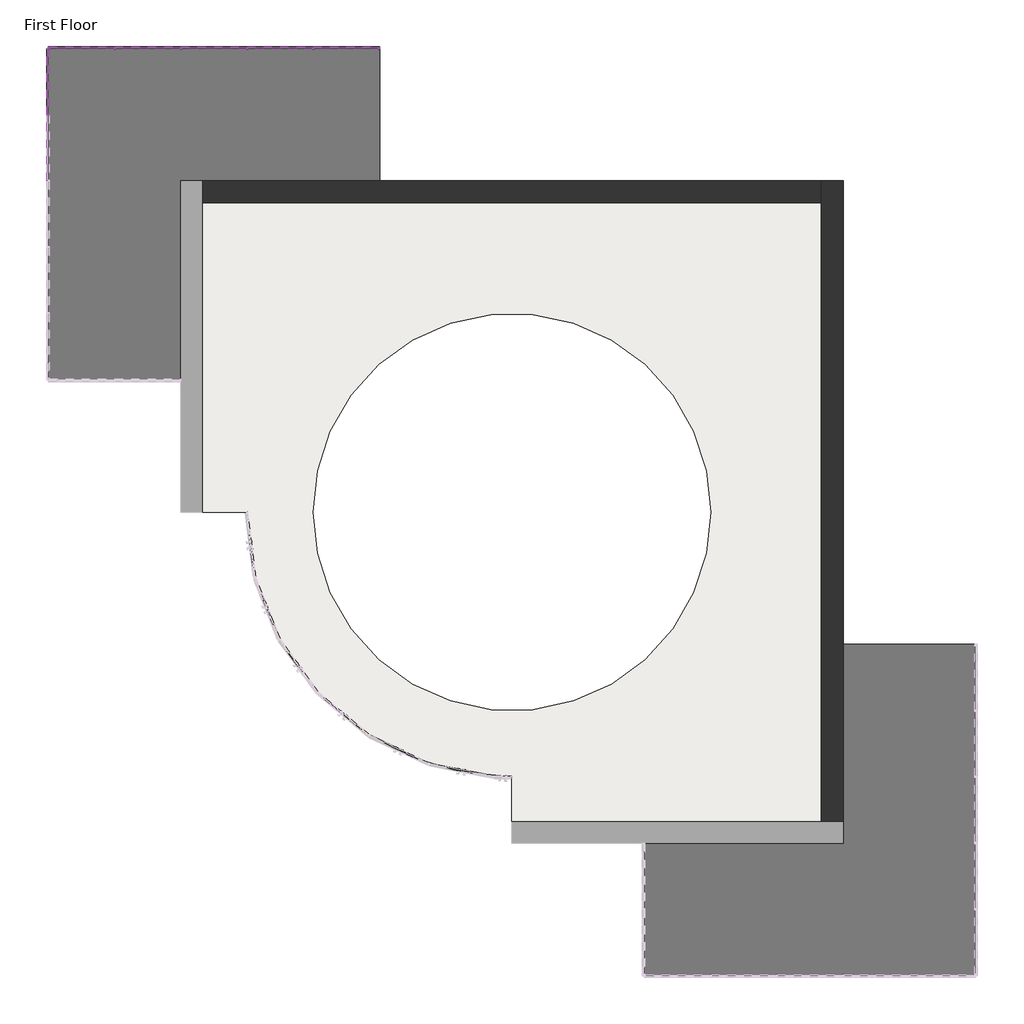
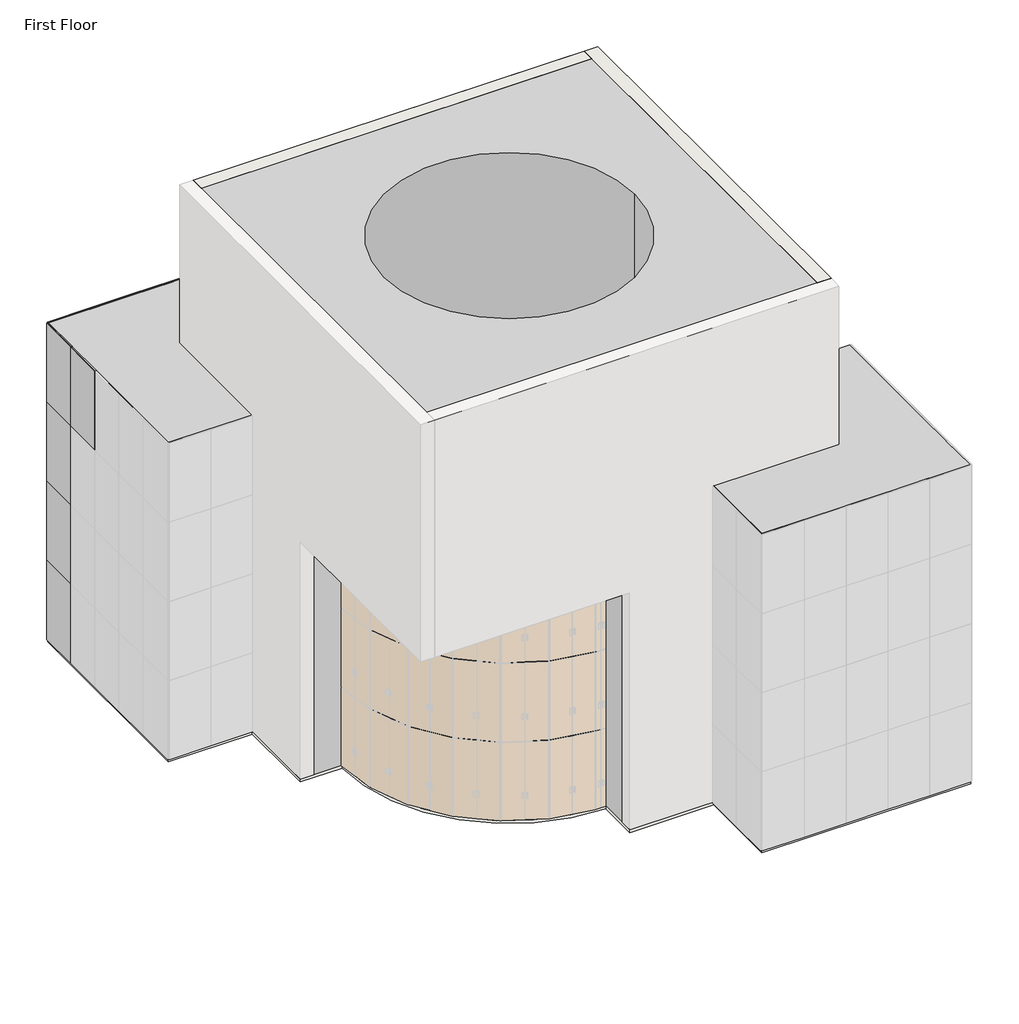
# One storey, part 4 of 4: 63 members, 25 plates, 2 proxies, 2 slabs, 2 walls.
"""IFC4 building model written with IfcOpenShell, lengths in millimetres."""

import ifcopenshell
import ifcopenshell.guid

model = None  # the IFC model being written
_history = None  # IfcOwnerHistory: only IFC2X3 demands one
_inside = {}  # id of a spatial element -> (the spatial element, [elements in it])
_under = {}  # id of a project, library or spatial element -> (it, [spatial elements below it])
_declared = {}  # id of a project -> (the project, [libraries it declares])
_typed = {}  # id of a type object -> (the type object, [elements of that type])
_made_of = {}  # id of a material, layer set ... -> (it, [elements and type objects made of it])


def new_model(schema):
    """Start an empty IFC model of exactly this schema.

    Asked for "IFC4X3", IfcOpenShell would pick the latest addendum, in which some entities
    have other attributes; the version numbers below select the first issue.
    IFC2X3 requires an IfcOwnerHistory on every rooted entity: one is made here for all.
    """
    global model, _history
    if schema == "IFC4X3":
        model = ifcopenshell.file(schema_version=(4, 3, 0, 0))
    else:
        model = ifcopenshell.file(schema=schema)
    _inside.clear()
    _under.clear()
    _declared.clear()
    _typed.clear()
    _made_of.clear()
    _history = None
    if model.schema == "IFC2X3":
        org = make("IfcOrganization", Name="unknown")
        user = make(
            "IfcPersonAndOrganization",
            ThePerson=make("IfcPerson", FamilyName="unknown"),
            TheOrganization=org,
        )
        app = make(
            "IfcApplication",
            ApplicationDeveloper=org,
            Version="unknown",
            ApplicationFullName="unknown",
            ApplicationIdentifier="unknown",
        )
        _history = make(
            "IfcOwnerHistory",
            OwningUser=user,
            OwningApplication=app,
            ChangeAction="ADDED",
            CreationDate=0,
        )
    return model


def make(cls, **values):
    """One entity of the class cls with the attributes given. An attribute that is None is left unset."""
    return model.create_entity(
        cls, **{name: value for name, value in values.items() if value is not None}
    )


def rooted(cls, **values):
    """An entity with a GlobalId (a new one), such as an element, a storey or a relation."""
    return make(cls, GlobalId=ifcopenshell.guid.new(), OwnerHistory=_history, **values)


def si_unit(unit_type, name, prefix=None):
    """IfcSIUnit, for example si_unit("LENGTHUNIT", "METRE", prefix="MILLI")."""
    return make("IfcSIUnit", UnitType=unit_type, Prefix=prefix, Name=name)


def assignment(units):
    """IfcUnitAssignment: the units of a project."""
    return None if units is None else make("IfcUnitAssignment", Units=units)


def point(xyz):
    """IfcCartesianPoint."""
    return None if xyz is None else make("IfcCartesianPoint", Coordinates=xyz)


def direction(xyz):
    """IfcDirection."""
    return None if xyz is None else make("IfcDirection", DirectionRatios=xyz)


def frame(location, z_axis=None, x_axis=None):
    """IfcAxis2Placement3D, a coordinate frame: its origin and axes. An axis left out is left unset."""
    return make(
        "IfcAxis2Placement3D",
        Location=point(location),
        Axis=direction(z_axis),
        RefDirection=direction(x_axis),
    )


def frame_2d(location, x_axis=None):
    """IfcAxis2Placement2D, a coordinate frame in the plane: its origin and x axis."""
    return make(
        "IfcAxis2Placement2D", Location=point(location), RefDirection=direction(x_axis)
    )


def origin():
    """The frame at (0, 0, 0) with its axes left unset."""
    return frame((0.0, 0.0, 0.0))


def origin_with_axes():
    """The frame at (0, 0, 0) with the z axis (0, 0, 1) and the x axis (1, 0, 0) written out."""
    return frame((0.0, 0.0, 0.0), z_axis=(0.0, 0.0, 1.0), x_axis=(1.0, 0.0, 0.0))


def place(relative_to, where):
    """IfcLocalPlacement: puts the frame where relative to a parent placement (None: the world)."""
    return make(
        "IfcLocalPlacement", PlacementRelTo=relative_to, RelativePlacement=where
    )


def context(
    kind, dimensions, precision=None, world=None, true_north=None, identifier=None
):
    """IfcGeometricRepresentationContext, for example the 3D "Model" context."""
    return make(
        "IfcGeometricRepresentationContext",
        ContextIdentifier=identifier,
        ContextType=kind,
        CoordinateSpaceDimension=dimensions,
        Precision=precision,
        WorldCoordinateSystem=world,
        TrueNorth=true_north,
    )


def project(units=None, contexts=None):
    """IfcProject with its units and contexts."""
    return rooted(
        "IfcProject",
        Name="project",
        RepresentationContexts=contexts,
        UnitsInContext=assignment(units),
    )


def spatial(cls, under=None, at=None, **own):
    """A site, building, storey or space (cls), placed at a placement, below another one or the project."""
    s = rooted(cls, ObjectPlacement=at, **own)
    if under is not None:
        _under.setdefault(under.id(), (under, []))[1].append(s)
    return s


def polyline(points):
    """IfcPolyline through the points."""
    return make("IfcPolyline", Points=[point(p) for p in points])


def circle_curve(where, radius):
    """IfcCircle in the frame where."""
    return make("IfcCircle", Position=where, Radius=radius)


def trimmed(basis, trim1, trim2, sense, master):
    """IfcTrimmedCurve: the piece of a basis curve between two trims."""
    return make(
        "IfcTrimmedCurve",
        BasisCurve=basis,
        Trim1=trim1,
        Trim2=trim2,
        SenseAgreement=sense,
        MasterRepresentation=master,
    )


def segment(curve, same_sense, transition):
    """IfcCompositeCurveSegment."""
    return make(
        "IfcCompositeCurveSegment",
        Transition=transition,
        SameSense=same_sense,
        ParentCurve=curve,
    )


def composite_curve(segments, self_intersect=None):
    """IfcCompositeCurve: segments joined end to end."""
    return make("IfcCompositeCurve", Segments=segments, SelfIntersect=self_intersect)


def outline(outer, holes=None, kind="AREA"):
    """IfcArbitraryClosedProfileDef: a profile drawn as a closed curve; with holes, ...WithVoids."""
    if holes is None:
        return make("IfcArbitraryClosedProfileDef", ProfileType=kind, OuterCurve=outer)
    return make(
        "IfcArbitraryProfileDefWithVoids",
        ProfileType=kind,
        OuterCurve=outer,
        InnerCurves=holes,
    )


def extrude(swept, where, along, depth):
    """IfcExtrudedAreaSolid: the profile swept, set in the frame where, extruded along a direction by depth."""
    return make(
        "IfcExtrudedAreaSolid",
        SweptArea=swept,
        Position=where,
        ExtrudedDirection=direction(along),
        Depth=depth,
    )


def faces_of(points, faces, orient=None, outer=None):
    """IfcFace entities. A face is a list of loops; a loop is a list of indices into points, from 0.

    orient and outer hold one flag for each loop. By default every Orientation is true, the
    first loop of a face is its IfcFaceOuterBound and the others are IfcFaceBound.
    """
    made = []
    for i, loops in enumerate(faces):
        bounds = []
        for j, loop in enumerate(loops):
            is_outer = j == 0 if outer is None else outer[i][j]
            bounds.append(
                make(
                    "IfcFaceOuterBound" if is_outer else "IfcFaceBound",
                    Bound=make("IfcPolyLoop", Polygon=[points[k] for k in loop]),
                    Orientation=True if orient is None else orient[i][j],
                )
            )
        made.append(make("IfcFace", Bounds=bounds))
    return made


def faceted_brep(points, faces, orient=None, outer=None, voids=None):
    """IfcFacetedBrep: a solid bounded by flat faces; with voids (closed shells), ...WithVoids."""
    shared = [point(p) for p in points]
    hull = make("IfcClosedShell", CfsFaces=faces_of(shared, faces, orient, outer))
    if voids is None:
        return make("IfcFacetedBrep", Outer=hull)
    return make(
        "IfcFacetedBrepWithVoids",
        Outer=hull,
        Voids=[
            make(cls, CfsFaces=faces_of(shared, fs, o, b)) for cls, fs, o, b in voids
        ],
    )


def shape(context_of_items, identifier, shape_type, items):
    """IfcShapeRepresentation: the items that make up one representation, for example the "Body"."""
    return make(
        "IfcShapeRepresentation",
        ContextOfItems=context_of_items,
        RepresentationIdentifier=identifier,
        RepresentationType=shape_type,
        Items=items,
    )


def source(mapping_origin, context_of_items, identifier, shape_type, items):
    """IfcRepresentationMap: a shape defined once, which mapped items show again and again."""
    return make(
        "IfcRepresentationMap",
        MappingOrigin=mapping_origin,
        MappedRepresentation=shape(context_of_items, identifier, shape_type, items),
    )


def transform(
    local_origin,
    x_axis=None,
    y_axis=None,
    z_axis=None,
    scale=None,
    scale2=None,
    scale3=None,
    uniform=True,
):
    """IfcCartesianTransformationOperator3D, or its non-uniform kind. x_axis, y_axis, z_axis: its Axis1, 2, 3."""
    if uniform:
        return make(
            "IfcCartesianTransformationOperator3D",
            Axis1=direction(x_axis),
            Axis2=direction(y_axis),
            LocalOrigin=point(local_origin),
            Scale=scale,
            Axis3=direction(z_axis),
        )
    return make(
        "IfcCartesianTransformationOperator3DnonUniform",
        Axis1=direction(x_axis),
        Axis2=direction(y_axis),
        LocalOrigin=point(local_origin),
        Scale=scale,
        Axis3=direction(z_axis),
        Scale2=scale2,
        Scale3=scale3,
    )


def mapped(mapping_source, mapping_target):
    """IfcMappedItem: shows the shape of a source again, moved by a transform."""
    return make(
        "IfcMappedItem", MappingSource=mapping_source, MappingTarget=mapping_target
    )


def made_of(thing, what):
    """Note that an element or type object is made of a material, layer set ...; save() writes the relation."""
    if what is not None:
        _made_of.setdefault(what.id(), (what, []))[1].append(thing)
    return thing


def element(
    cls,
    number,
    at=None,
    inside=None,
    cuts=None,
    type_object=None,
    material=None,
    context=None,
    identifier="Body",
    shape_type=None,
    held_by="IfcProductDefinitionShape",
    body=None,
    shapes=None,
    **own,
):
    """One element of the class cls, such as IfcWall. Its Tag is "e" and its number.

    at: its placement. inside: the storey or other place that contains it. cuts: it is an
    opening in that element (IfcRelVoidsElement). A single representation is given by context,
    identifier, shape_type and body (its items); several are given by shapes. held_by: the class
    of the entity that holds the representations. save() writes the other relations.
    """
    e = rooted(cls, Tag="e%d" % number, ObjectPlacement=at, **own)
    if body is not None:
        shapes = [shape(context, identifier, shape_type, body)]
    if shapes is not None:
        e.Representation = make(held_by, Representations=shapes)
    if inside is not None:
        _inside.setdefault(inside.id(), (inside, []))[1].append(e)
    if cuts is not None:
        rooted(
            "IfcRelVoidsElement", RelatingBuildingElement=cuts, RelatedOpeningElement=e
        )
    if type_object is not None:
        _typed.setdefault(type_object.id(), (type_object, []))[1].append(e)
    return made_of(e, material)


def aggregate(whole, parts):
    """IfcRelAggregates: a whole, such as a stair, and the parts it consists of."""
    return rooted("IfcRelAggregates", RelatingObject=whole, RelatedObjects=parts)


def save(model, path):
    """Write the relations noted so far, then the file.

    IfcRelAggregates (storeys below a building ...), IfcRelContainedInSpatialStructure (elements
    in a storey), IfcRelDefinesByType, IfcRelAssociatesMaterial and IfcRelDeclares: one each for
    every whole, place, type object, material and project.
    """
    for whole, parts in _under.values():
        aggregate(whole, parts)
    for where, things in _inside.values():
        rooted(
            "IfcRelContainedInSpatialStructure",
            RelatedElements=things,
            RelatingStructure=where,
        )
    for kind, things in _typed.values():
        rooted("IfcRelDefinesByType", RelatedObjects=things, RelatingType=kind)
    for what, things in _made_of.values():
        rooted("IfcRelAssociatesMaterial", RelatedObjects=things, RelatingMaterial=what)
    for by, libraries in _declared.values():
        rooted("IfcRelDeclares", RelatingContext=by, RelatedDefinitions=libraries)
    model.write(path)


def plane_surface(at):
    """IfcPlane: the flat surface through the origin of the frame at, square to its z axis."""
    return make("IfcPlane", Position=at)


def cylinder_surface(at, radius):
    """IfcCylindricalSurface: all points at the distance radius from the z axis of the frame at."""
    return make("IfcCylindricalSurface", Position=at, Radius=radius)


def revolved_surface(curve, axis_point, axis_direction):
    """IfcSurfaceOfRevolution: the curve turned about the line through axis_point along axis_direction."""
    return make(
        "IfcSurfaceOfRevolution",
        SweptCurve=make("IfcArbitraryOpenProfileDef", ProfileType="CURVE", Curve=curve),
        AxisPosition=make("IfcAxis1Placement", Location=point(axis_point), Axis=direction(axis_direction)),
    )


def advanced_brep(points, edges, surfaces, faces):
    """IfcAdvancedBrep: a solid bounded by faces that lie on surfaces and meet in shared edges.

    An edge is (start, end): straight between two places in points (the first is 0);
    or (start, end, curve); or (start, end, curve, False) where it runs against its curve.
    A face is (place in surfaces, loops), or (place, loops, False) where it looks against
    its surface's normal. A loop lists edges by number (the first is 1), with a minus sign
    where the edge is run from its end to its start. The first loop is the outer one.
    """
    corners = [point(p) for p in points]
    vertices = [make("IfcVertexPoint", VertexGeometry=c) for c in corners]
    made = []
    for start, end, *more in edges:
        made.append(
            make(
                "IfcEdgeCurve",
                EdgeStart=vertices[start],
                EdgeEnd=vertices[end],
                EdgeGeometry=more[0] if more else make("IfcPolyline", Points=[corners[start], corners[end]]),
                SameSense=more[1] if len(more) > 1 else True,
            )
        )
    hull = []
    for where, loops, *sense in faces:
        bounds = []
        for j, loop in enumerate(loops):
            ring = [make("IfcOrientedEdge", EdgeElement=made[abs(k) - 1], Orientation=k > 0) for k in loop]
            bounds.append(
                make(
                    "IfcFaceOuterBound" if j == 0 else "IfcFaceBound",
                    Bound=make("IfcEdgeLoop", EdgeList=ring),
                    Orientation=True,
                )
            )
        hull.append(make("IfcAdvancedFace", Bounds=bounds, FaceSurface=surfaces[where], SameSense=sense[0] if sense else True))
    return make("IfcAdvancedBrep", Outer=make("IfcClosedShell", CfsFaces=hull))


def member_cbdb9076(model_context):
    return source(origin(), model_context, "Body", "SweptSolid", [
        extrude(outline(polyline([(12.7, 12.7), (12.7, -12.7), (-12.7, -12.7), (-12.7, 12.7), (12.7, 12.7)])), frame((0.0, 0.0, -3048.0), z_axis=(0.0, 0.0, 1.0), x_axis=(1.0, 0.0, 0.0)), (0.0, 0.0, 1.0), 3048.0),
    ])


def member_7e523723(model_context):
    return source(origin(), model_context, "Body", "SweptSolid", [
        extrude(outline(polyline([(0.0, 12.7), (0.0, -12.7), (-25.4, -12.7), (-25.4, 12.7), (0.0, 12.7)])), frame((0.0, 0.0, -3048.0), z_axis=(0.0, 0.0, 1.0), x_axis=(1.0, 0.0, 0.0)), (0.0, 0.0, 1.0), 3048.0),
    ])


def member_e16e0e7d(model_context):
    return source(origin(), model_context, "Body", "SweptSolid", [
        extrude(outline(polyline([(0.0, 12.7), (0.0, -12.7), (-25.4, -12.7), (-25.4, 12.7), (0.0, 12.7)])), frame((0.0, 0.0, -1485.8999997), z_axis=(0.0, 0.0, 1.0), x_axis=(1.0, 0.0, 0.0)), (0.0, 0.0, 1.0), 1485.8999997),
    ])


def member_15743826(model_context):
    return source(origin(), model_context, "Body", "SweptSolid", [
        extrude(outline(polyline([(0.0, 12.7), (0.0, -12.7), (-25.4, -12.7), (-25.4, 12.7), (0.0, 12.7)])), frame((0.0, 0.0, -1485.9000003), z_axis=(0.0, 0.0, 1.0), x_axis=(1.0, 0.0, 0.0)), (0.0, 0.0, 1.0), 1485.9000003),
    ])


def member_c4f80b05(model_context):
    return source(origin(), model_context, "Body", "SweptSolid", [
        extrude(outline(polyline([(12.7, 12.7), (12.7, -12.7), (-12.7, -12.7), (-12.7, 12.7), (12.7, 12.7)])), frame((0.0, 0.0, -1485.9000003), z_axis=(0.0, 0.0, 1.0), x_axis=(1.0, 0.0, 0.0)), (0.0, 0.0, 1.0), 1485.9000003),
    ])


def member_9fd3d903(model_context):
    return source(origin(), model_context, "Body", "SweptSolid", [
        extrude(outline(polyline([(12.7, 12.7), (12.7, -12.7), (-12.7, -12.7), (-12.7, 12.7), (12.7, 12.7)])), frame((0.0, 0.0, -1498.6), z_axis=(0.0, 0.0, 1.0), x_axis=(1.0, 0.0, 0.0)), (0.0, 0.0, 1.0), 1498.6),
    ])


def member_6604d1e0(model_context):
    return source(origin(), model_context, "Body", "SweptSolid", [
        extrude(outline(polyline([(0.0, 12.7), (0.0, -12.7), (-25.4, -12.7), (-25.4, 12.7), (0.0, 12.7)])), frame((0.0, 0.0, -1498.6), z_axis=(0.0, 0.0, 1.0), x_axis=(1.0, 0.0, 0.0)), (0.0, 0.0, 1.0), 1498.6),
    ])


def system_panel_glazed_c0c5e10a(model_context):
    return source(origin(), model_context, "Body", "SweptSolid", [
        extrude(outline(polyline([(762.0000002, -44.45), (-762.0000002, -44.45), (-762.0000002, -19.05), (762.0000002, -19.05), (762.0000002, -44.45)])), origin_with_axes(), (0.0, 0.0, 1.0), 3048.0),
    ])


model = new_model("IFC4")

# Units and contexts
model_context = context("Model", 3, world=origin())
ifc_project = project(units=[si_unit("LENGTHUNIT", "METRE", prefix="MILLI")], contexts=[model_context])

# Site, building, storey
site = spatial("IfcSite", under=ifc_project)
building = spatial("IfcBuilding", under=site)
storey = spatial("IfcBuildingStorey", under=building, Name="First Floor", Elevation=0.0)

# Proxies
placement = place(None, origin())
element("IfcBuildingElementProxy", 1, Name="Central Hall : Central Hall", ObjectType="Central Hall : Central Hall", at=placement, inside=storey, context=model_context, shape_type="AdvancedBrep", body=[
    advanced_brep(
    [(7865.314252, 7577.3780505, 0.0), (-7374.685748, 7577.3780505, 0.0), (-7374.685748, 7577.3780505, 18288.0), (7865.314252, 7577.3780505, 18288.0), (-7374.685748, -42.6219495, 0.0), (-7374.685748, -42.6219495, 9144.0), (-7374.685748, -7662.6219495, 9144.0), (-7374.685748, -7662.6219495, 18288.0), (7865.314252, -7662.6219495, 0.0), (7865.314252, -7662.6219495, 18288.0), (245.314252, -7662.6219495, 9144.0), (245.314252, -7662.6219495, 0.0), (4817.314252, -42.6219495, 18288.0), (-4326.685748, -42.6219495, 18288.0), (245.314252, -6138.6219495, 0.0), (-5850.685748, -42.6219495, 0.0), (-4326.685748, -42.6219495, 0.0), (4817.314252, -42.6219495, 0.0), (245.314252, -6138.6219495, 9144.0), (-5850.685748, -42.6219495, 9144.0)],
    [
        (0, 1),
        (1, 2),
        (2, 3),
        (3, 0),
        (1, 4),
        (4, 5),
        (5, 6),
        (6, 7),
        (7, 2),
        (8, 9),
        (9, 7),
        (6, 10),
        (10, 11),
        (11, 8),
        (3, 9),
        (8, 0),
        (12, 13, circle_curve(frame((245.314252, -42.6219495, 18288.0), z_axis=(0.0, 0.0, -1.0), x_axis=(0.0, -1.0, 0.0)), 4572.0)),
        (13, 12, circle_curve(frame((245.314252, -42.6219495, 18288.0), z_axis=(0.0, 0.0, -1.0), x_axis=(0.0, 1.0, 0.0)), 4572.0)),
        (11, 14),
        (14, 15, circle_curve(frame((245.314252, -42.6219495, 0.0), z_axis=(0.0, 0.0, -1.0), x_axis=(-1.0, 0.0, 0.0)), 6096.0)),
        (15, 4),
        (16, 17, circle_curve(frame((245.314252, -42.6219495, 0.0), z_axis=(0.0, 0.0, 1.0), x_axis=(0.0, -1.0, 0.0)), 4572.0)),
        (17, 16, circle_curve(frame((245.314252, -42.6219495, 0.0), z_axis=(0.0, 0.0, 1.0), x_axis=(0.0, 1.0, 0.0)), 4572.0)),
        (16, 13),
        (12, 17),
        (14, 18),
        (18, 19, circle_curve(frame((245.314252, -42.6219495, 9144.0), z_axis=(0.0, 0.0, -1.0), x_axis=(-1.0, 0.0, 0.0)), 6096.0)),
        (19, 15),
        (19, 5),
        (10, 18),
    ],
    [
        plane_surface(frame((245.314252, 7577.3780505, 0.0), z_axis=(0.0, 1.0, 0.0), x_axis=(-1.0, 0.0, 0.0))),
        plane_surface(frame((-7374.685748, -42.6219495, 0.0), z_axis=(-1.0, 0.0, 0.0), x_axis=(0.0, -1.0, 0.0))),
        plane_surface(frame((245.314252, -7662.6219495, 0.0), z_axis=(0.0, -1.0, 0.0), x_axis=(1.0, 0.0, 0.0))),
        plane_surface(frame((7865.314252, -42.6219495, 0.0), z_axis=(1.0, 0.0, 0.0), x_axis=(0.0, 1.0, 0.0))),
        plane_surface(frame((245.314252, -42.6219495, 18288.0), z_axis=(0.0, 0.0, 1.0), x_axis=(1.0, 0.0, 0.0))),
        plane_surface(frame((245.314252, -42.6219495, 0.0), z_axis=(0.0, 0.0, -1.0), x_axis=(0.0, -1.0, 0.0))),
        revolved_surface(polyline([(245.314252, -4614.6219495, 18288.0), (245.314252, -4614.6219495, 0.0)]), (245.314252, -42.6219495, 0.0), (0.0, 0.0, 1.0)),
        revolved_surface(polyline([(245.314252, 4529.3780505, 18288.0), (245.314252, 4529.3780505, 0.0)]), (245.314252, -42.6219495, 0.0), (0.0, 0.0, 1.0)),
        cylinder_surface(frame((245.314252, -42.6219495, 0.0), z_axis=(0.0, 0.0, 1.0), x_axis=(-1.0, 0.0, 0.0)), 6096.0),
        plane_surface(frame((-6612.685748, -42.6219495, 0.0), z_axis=(0.0, -1.0, 0.0), x_axis=(-1.0, 0.0, 0.0))),
        plane_surface(frame((245.314252, -6900.6219495, 0.0), z_axis=(-1.0, 0.0, 0.0), x_axis=(0.0, 1.0, 0.0))),
        plane_surface(frame((-4021.885748, -4309.8219495, 9144.0), z_axis=(0.0, 0.0, -1.0), x_axis=(1.0, 0.0, 0.0))),
    ],
    [
        (0, [[1, 2, 3, 4]]),
        (1, [[-2, 5, 6, 7, 8, 9]]),
        (2, [[10, 11, -8, 12, 13, 14]]),
        (3, [[-4, 15, -10, 16]]),
        (4, [[-3, -9, -11, -15], [17, 18]]),
        (5, [[-1, -16, -14, 19, 20, 21, -5], [22, 23]]),
        (6, [[24, -17, 25, -22]]),
        (7, [[-24, -23, -25, -18]]),
        (8, [[26, 27, 28, -20]]),
        (9, [[-28, 29, -6, -21]]),
        (10, [[-26, -19, -13, 30]]),
        (11, [[-27, -30, -12, -7, -29]]),
    ],
),
])
element("IfcBuildingElementProxy", 2, Name="Wings : Wings", ObjectType="Wings : Wings", at=placement, inside=storey, context=model_context, shape_type="SweptSolid", body=[
    extrude(outline(polyline([(-10422.685748, 3005.3780505), (-10422.685748, 10625.3780505), (-2802.685748, 10625.3780505), (-2802.685748, 7577.3780505), (-7374.685748, 7577.3780505), (-7374.685748, 3005.3780505), (-10422.685748, 3005.3780505)])), origin_with_axes(), (0.0, 0.0, 1.0), 12192.0),
    extrude(outline(polyline([(3293.314252, -10710.6219495), (3293.314252, -7662.6219495), (7865.314252, -7662.6219495), (7865.314252, -3090.6219495), (10913.314252, -3090.6219495), (10913.314252, -10710.6219495), (3293.314252, -10710.6219495)])), origin_with_axes(), (0.0, 0.0, 1.0), 12192.0),
])

# Members
member_shape = member_cbdb9076(model_context)
element("IfcMember", 3, ObjectType="Rectangular Mullion : 1\" Square", at=placement, inside=storey, context=model_context, shape_type="MappedRepresentation", body=[
    mapped(member_shape, transform((-10422.685748, 9101.3780502, 0.0), x_axis=(0.0, -1.0, 0.0), y_axis=(-1.0, 0.0, 0.0), z_axis=(0.0, 0.0, -1.0))),
])
element("IfcMember", 4, ObjectType="Rectangular Mullion : 1\" Square", at=placement, inside=storey, context=model_context, shape_type="MappedRepresentation", body=[
    mapped(member_shape, transform((-4326.6857483, 10625.3780505, 0.0), x_axis=(-1.0, 0.0, 0.0), y_axis=(0.0, 1.0, 0.0), z_axis=(0.0, 0.0, -1.0))),
])
element("IfcMember", 5, ObjectType="Rectangular Mullion : 1\" Square", at=placement, inside=storey, context=model_context, shape_type="MappedRepresentation", body=[
    mapped(member_shape, transform((-5850.6857483, 10625.3780505, 0.0), x_axis=(-1.0, 0.0, 0.0), y_axis=(0.0, 1.0, 0.0), z_axis=(0.0, 0.0, -1.0))),
])
element("IfcMember", 6, ObjectType="Rectangular Mullion : 1\" Square", at=placement, inside=storey, context=model_context, shape_type="MappedRepresentation", body=[
    mapped(member_shape, transform((-7374.6857483, 10625.3780505, 0.0), x_axis=(-1.0, 0.0, 0.0), y_axis=(0.0, 1.0, 0.0), z_axis=(0.0, 0.0, -1.0))),
])
element("IfcMember", 7, ObjectType="Rectangular Mullion : 1\" Square", at=placement, inside=storey, context=model_context, shape_type="MappedRepresentation", body=[
    mapped(member_shape, transform((-8898.6857483, 10625.3780505, 0.0), x_axis=(-1.0, 0.0, 0.0), y_axis=(0.0, 1.0, 0.0), z_axis=(0.0, 0.0, -1.0))),
])
element("IfcMember", 8, ObjectType="Rectangular Mullion : 1\" Square", at=placement, inside=storey, context=model_context, shape_type="MappedRepresentation", body=[
    mapped(member_shape, transform((-10422.685748, 9101.3780502, 3048.0), x_axis=(0.0, -1.0, 0.0), y_axis=(-1.0, 0.0, 0.0), z_axis=(0.0, 0.0, -1.0))),
])
element("IfcMember", 9, ObjectType="Rectangular Mullion : 1\" Square", at=placement, inside=storey, context=model_context, shape_type="MappedRepresentation", body=[
    mapped(member_shape, transform((-10422.685748, 9101.3780502, 6096.0), x_axis=(0.0, -1.0, 0.0), y_axis=(-1.0, 0.0, 0.0), z_axis=(0.0, 0.0, -1.0))),
])
element("IfcMember", 10, ObjectType="Rectangular Mullion : 1\" Square", at=placement, inside=storey, context=model_context, shape_type="MappedRepresentation", body=[
    mapped(member_shape, transform((-4326.6857483, 10625.3780505, 3048.0), x_axis=(-1.0, 0.0, 0.0), y_axis=(0.0, 1.0, 0.0), z_axis=(0.0, 0.0, -1.0))),
])
element("IfcMember", 11, ObjectType="Rectangular Mullion : 1\" Square", at=placement, inside=storey, context=model_context, shape_type="MappedRepresentation", body=[
    mapped(member_shape, transform((-4326.6857483, 10625.3780505, 6096.0), x_axis=(-1.0, 0.0, 0.0), y_axis=(0.0, 1.0, 0.0), z_axis=(0.0, 0.0, -1.0))),
])
element("IfcMember", 12, ObjectType="Rectangular Mullion : 1\" Square", at=placement, inside=storey, context=model_context, shape_type="MappedRepresentation", body=[
    mapped(member_shape, transform((-5850.6857483, 10625.3780505, 3048.0), x_axis=(-1.0, 0.0, 0.0), y_axis=(0.0, 1.0, 0.0), z_axis=(0.0, 0.0, -1.0))),
])
element("IfcMember", 13, ObjectType="Rectangular Mullion : 1\" Square", at=placement, inside=storey, context=model_context, shape_type="MappedRepresentation", body=[
    mapped(member_shape, transform((-5850.6857483, 10625.3780505, 6096.0), x_axis=(-1.0, 0.0, 0.0), y_axis=(0.0, 1.0, 0.0), z_axis=(0.0, 0.0, -1.0))),
])
element("IfcMember", 14, ObjectType="Rectangular Mullion : 1\" Square", at=placement, inside=storey, context=model_context, shape_type="MappedRepresentation", body=[
    mapped(member_shape, transform((-7374.6857483, 10625.3780505, 3048.0), x_axis=(-1.0, 0.0, 0.0), y_axis=(0.0, 1.0, 0.0), z_axis=(0.0, 0.0, -1.0))),
])
element("IfcMember", 15, ObjectType="Rectangular Mullion : 1\" Square", at=placement, inside=storey, context=model_context, shape_type="MappedRepresentation", body=[
    mapped(member_shape, transform((-7374.6857483, 10625.3780505, 6096.0), x_axis=(-1.0, 0.0, 0.0), y_axis=(0.0, 1.0, 0.0), z_axis=(0.0, 0.0, -1.0))),
])
element("IfcMember", 16, ObjectType="Rectangular Mullion : 1\" Square", at=placement, inside=storey, context=model_context, shape_type="MappedRepresentation", body=[
    mapped(member_shape, transform((-8898.6857483, 10625.3780505, 3048.0), x_axis=(-1.0, 0.0, 0.0), y_axis=(0.0, 1.0, 0.0), z_axis=(0.0, 0.0, -1.0))),
])
element("IfcMember", 17, ObjectType="Rectangular Mullion : 1\" Square", at=placement, inside=storey, context=model_context, shape_type="MappedRepresentation", body=[
    mapped(member_shape, transform((-8898.6857483, 10625.3780505, 6096.0), x_axis=(-1.0, 0.0, 0.0), y_axis=(0.0, 1.0, 0.0), z_axis=(0.0, 0.0, -1.0))),
])
element("IfcMember", 18, ObjectType="Rectangular Mullion : 1\" Square", at=placement, inside=storey, context=model_context, shape_type="MappedRepresentation", body=[
    mapped(member_shape, transform((-10422.685748, 9101.3780502, 9144.0), x_axis=(0.0, -1.0, 0.0), y_axis=(-1.0, 0.0, 0.0), z_axis=(0.0, 0.0, -1.0))),
])
element("IfcMember", 19, ObjectType="Rectangular Mullion : 1\" Square", at=placement, inside=storey, context=model_context, shape_type="MappedRepresentation", body=[
    mapped(member_shape, transform((-4326.6857483, 10625.3780505, 9144.0), x_axis=(-1.0, 0.0, 0.0), y_axis=(0.0, 1.0, 0.0), z_axis=(0.0, 0.0, -1.0))),
])
element("IfcMember", 20, ObjectType="Rectangular Mullion : 1\" Square", at=placement, inside=storey, context=model_context, shape_type="MappedRepresentation", body=[
    mapped(member_shape, transform((-5850.6857483, 10625.3780505, 9144.0), x_axis=(-1.0, 0.0, 0.0), y_axis=(0.0, 1.0, 0.0), z_axis=(0.0, 0.0, -1.0))),
])
element("IfcMember", 21, ObjectType="Rectangular Mullion : 1\" Square", at=placement, inside=storey, context=model_context, shape_type="MappedRepresentation", body=[
    mapped(member_shape, transform((-7374.6857483, 10625.3780505, 9144.0), x_axis=(-1.0, 0.0, 0.0), y_axis=(0.0, 1.0, 0.0), z_axis=(0.0, 0.0, -1.0))),
])
element("IfcMember", 22, ObjectType="Rectangular Mullion : 1\" Square", at=placement, inside=storey, context=model_context, shape_type="MappedRepresentation", body=[
    mapped(member_shape, transform((-8898.6857483, 10625.3780505, 9144.0), x_axis=(-1.0, 0.0, 0.0), y_axis=(0.0, 1.0, 0.0), z_axis=(0.0, 0.0, -1.0))),
])
member_2_shape = member_7e523723(model_context)
element("IfcMember", 23, ObjectType="Rectangular Mullion : 1\" Square", at=placement, inside=storey, context=model_context, shape_type="MappedRepresentation", body=[
    mapped(member_2_shape, transform((-10422.685748, 10625.3780505, 0.0), x_axis=(-1.0, 0.0, 0.0), y_axis=(0.0, 1.0, 0.0), z_axis=(0.0, 0.0, -1.0))),
])
element("IfcMember", 24, ObjectType="Rectangular Mullion : 1\" Square", at=placement, inside=storey, context=model_context, shape_type="MappedRepresentation", body=[
    mapped(member_2_shape, transform((-10422.685748, 10625.3780505, 12192.0), x_axis=(0.0, 1.0, 0.0), y_axis=(-1.0, 0.0, 0.0), z_axis=(0.0, 0.0, 1.0))),
])
element("IfcMember", 25, ObjectType="Rectangular Mullion : 1\" Square", at=placement, inside=storey, context=model_context, shape_type="MappedRepresentation", body=[
    mapped(member_2_shape, transform((-2802.685748, 10625.3780505, 12192.0), x_axis=(1.0, 0.0, 0.0), y_axis=(0.0, 1.0, 0.0), z_axis=(0.0, 0.0, 1.0))),
])
element("IfcMember", 26, ObjectType="Rectangular Mullion : 1\" Square", at=placement, inside=storey, context=model_context, shape_type="MappedRepresentation", body=[
    mapped(member_2_shape, transform((-10422.685748, 10625.3780505, 3048.0), x_axis=(0.0, 1.0, 0.0), y_axis=(-1.0, 0.0, 0.0), z_axis=(0.0, 0.0, 1.0))),
])
element("IfcMember", 27, ObjectType="Rectangular Mullion : 1\" Square", at=placement, inside=storey, context=model_context, shape_type="MappedRepresentation", body=[
    mapped(member_2_shape, transform((-2802.685748, 10625.3780505, 3048.0), x_axis=(1.0, 0.0, 0.0), y_axis=(0.0, 1.0, 0.0), z_axis=(0.0, 0.0, 1.0))),
])
element("IfcMember", 28, ObjectType="Rectangular Mullion : 1\" Square", at=placement, inside=storey, context=model_context, shape_type="MappedRepresentation", body=[
    mapped(member_2_shape, transform((-10422.685748, 10625.3780505, 6096.0), x_axis=(0.0, 1.0, 0.0), y_axis=(-1.0, 0.0, 0.0), z_axis=(0.0, 0.0, 1.0))),
])
element("IfcMember", 29, ObjectType="Rectangular Mullion : 1\" Square", at=placement, inside=storey, context=model_context, shape_type="MappedRepresentation", body=[
    mapped(member_2_shape, transform((-10422.685748, 10625.3780505, 9144.0), x_axis=(0.0, 1.0, 0.0), y_axis=(-1.0, 0.0, 0.0), z_axis=(0.0, 0.0, 1.0))),
])
element("IfcMember", 30, ObjectType="Rectangular Mullion : 1\" Square", at=placement, inside=storey, context=model_context, shape_type="MappedRepresentation", body=[
    mapped(member_2_shape, transform((-2802.685748, 10625.3780505, 6096.0), x_axis=(1.0, 0.0, 0.0), y_axis=(0.0, 1.0, 0.0), z_axis=(0.0, 0.0, 1.0))),
])
element("IfcMember", 31, ObjectType="Rectangular Mullion : 1\" Square", at=placement, inside=storey, context=model_context, shape_type="MappedRepresentation", body=[
    mapped(member_2_shape, transform((-2802.685748, 10625.3780505, 9144.0), x_axis=(1.0, 0.0, 0.0), y_axis=(0.0, 1.0, 0.0), z_axis=(0.0, 0.0, 1.0))),
])
element("IfcMember", 32, ObjectType="Rectangular Mullion : 1\" Square", at=placement, inside=storey, context=model_context, shape_type="MappedRepresentation", body=[
    mapped(member_2_shape, transform((-10422.685748, 10625.3780505, 3048.0), x_axis=(-1.0, 0.0, 0.0), y_axis=(0.0, 1.0, 0.0), z_axis=(0.0, 0.0, -1.0))),
])
element("IfcMember", 33, ObjectType="Rectangular Mullion : 1\" Square", at=placement, inside=storey, context=model_context, shape_type="MappedRepresentation", body=[
    mapped(member_2_shape, transform((-10422.685748, 10625.3780505, 6096.0), x_axis=(-1.0, 0.0, 0.0), y_axis=(0.0, 1.0, 0.0), z_axis=(0.0, 0.0, -1.0))),
])
element("IfcMember", 34, ObjectType="Rectangular Mullion : 1\" Square", at=placement, inside=storey, context=model_context, shape_type="MappedRepresentation", body=[
    mapped(member_2_shape, transform((-10422.685748, 10625.3780505, 9144.0), x_axis=(-1.0, 0.0, 0.0), y_axis=(0.0, 1.0, 0.0), z_axis=(0.0, 0.0, -1.0))),
])
member_3_shape = member_e16e0e7d(model_context)
element("IfcMember", 35, ObjectType="Rectangular Mullion : 1\" Square", at=placement, inside=storey, context=model_context, shape_type="MappedRepresentation", body=[
    mapped(member_3_shape, transform((-10422.685748, 9114.0780502, 12192.0), x_axis=(0.0, 0.0, 1.0), y_axis=(-1.0, 0.0, 0.0), z_axis=(0.0, -1.0, 0.0))),
])
element("IfcMember", 36, ObjectType="Rectangular Mullion : 1\" Square", at=placement, inside=storey, context=model_context, shape_type="MappedRepresentation", body=[
    mapped(member_3_shape, transform((-10397.285748, 10625.3780505, 12192.0), x_axis=(0.0, 0.0, 1.0), y_axis=(0.0, 1.0, 0.0), z_axis=(-1.0, 0.0, 0.0))),
])
element("IfcMember", 37, ObjectType="Rectangular Mullion : 1\" Square", at=placement, inside=storey, context=model_context, shape_type="MappedRepresentation", body=[
    mapped(member_3_shape, transform((-4313.9857483, 10625.3780505, 12192.0), x_axis=(0.0, 0.0, 1.0), y_axis=(0.0, 1.0, 0.0), z_axis=(-1.0, 0.0, 0.0))),
])
member_4_shape = member_15743826(model_context)
element("IfcMember", 38, ObjectType="Rectangular Mullion : 1\" Square", at=placement, inside=storey, context=model_context, shape_type="MappedRepresentation", body=[
    mapped(member_4_shape, transform((-10422.685748, 10599.9780505, 0.0), x_axis=(0.0, 0.0, -1.0), y_axis=(-1.0, 0.0, 0.0), z_axis=(0.0, 1.0, 0.0))),
])
element("IfcMember", 39, ObjectType="Rectangular Mullion : 1\" Square", at=placement, inside=storey, context=model_context, shape_type="MappedRepresentation", body=[
    mapped(member_4_shape, transform((-2828.085748, 10625.3780505, 0.0), x_axis=(0.0, 0.0, -1.0), y_axis=(0.0, 1.0, 0.0), z_axis=(1.0, 0.0, 0.0))),
])
element("IfcMember", 40, ObjectType="Rectangular Mullion : 1\" Square", at=placement, inside=storey, context=model_context, shape_type="MappedRepresentation", body=[
    mapped(member_4_shape, transform((-8911.3857483, 10625.3780505, 0.0), x_axis=(0.0, 0.0, -1.0), y_axis=(0.0, 1.0, 0.0), z_axis=(1.0, 0.0, 0.0))),
])
member_5_shape = member_c4f80b05(model_context)
element("IfcMember", 41, ObjectType="Rectangular Mullion : 1\" Square", at=placement, inside=storey, context=model_context, shape_type="MappedRepresentation", body=[
    mapped(member_5_shape, transform((-10422.685748, 9114.0780502, 3048.0), x_axis=(0.0, 0.0, 1.0), y_axis=(-1.0, 0.0, 0.0), z_axis=(0.0, -1.0, 0.0))),
])
element("IfcMember", 42, ObjectType="Rectangular Mullion : 1\" Square", at=placement, inside=storey, context=model_context, shape_type="MappedRepresentation", body=[
    mapped(member_5_shape, transform((-10422.685748, 9114.0780502, 6096.0), x_axis=(0.0, 0.0, 1.0), y_axis=(-1.0, 0.0, 0.0), z_axis=(0.0, -1.0, 0.0))),
])
element("IfcMember", 43, ObjectType="Rectangular Mullion : 1\" Square", at=placement, inside=storey, context=model_context, shape_type="MappedRepresentation", body=[
    mapped(member_5_shape, transform((-10422.685748, 9114.0780502, 9144.0), x_axis=(0.0, 0.0, 1.0), y_axis=(-1.0, 0.0, 0.0), z_axis=(0.0, -1.0, 0.0))),
])
element("IfcMember", 44, ObjectType="Rectangular Mullion : 1\" Square", at=placement, inside=storey, context=model_context, shape_type="MappedRepresentation", body=[
    mapped(member_5_shape, transform((-4313.9857483, 10625.3780505, 3048.0), x_axis=(0.0, 0.0, 1.0), y_axis=(0.0, 1.0, 0.0), z_axis=(-1.0, 0.0, 0.0))),
])
element("IfcMember", 45, ObjectType="Rectangular Mullion : 1\" Square", at=placement, inside=storey, context=model_context, shape_type="MappedRepresentation", body=[
    mapped(member_5_shape, transform((-10397.285748, 10625.3780505, 3048.0), x_axis=(0.0, 0.0, 1.0), y_axis=(0.0, 1.0, 0.0), z_axis=(-1.0, 0.0, 0.0))),
])
element("IfcMember", 46, ObjectType="Rectangular Mullion : 1\" Square", at=placement, inside=storey, context=model_context, shape_type="MappedRepresentation", body=[
    mapped(member_5_shape, transform((-4313.9857483, 10625.3780505, 6096.0), x_axis=(0.0, 0.0, 1.0), y_axis=(0.0, 1.0, 0.0), z_axis=(-1.0, 0.0, 0.0))),
])
element("IfcMember", 47, ObjectType="Rectangular Mullion : 1\" Square", at=placement, inside=storey, context=model_context, shape_type="MappedRepresentation", body=[
    mapped(member_5_shape, transform((-10397.285748, 10625.3780505, 6096.0), x_axis=(0.0, 0.0, 1.0), y_axis=(0.0, 1.0, 0.0), z_axis=(-1.0, 0.0, 0.0))),
])
element("IfcMember", 48, ObjectType="Rectangular Mullion : 1\" Square", at=placement, inside=storey, context=model_context, shape_type="MappedRepresentation", body=[
    mapped(member_5_shape, transform((-4313.9857483, 10625.3780505, 9144.0), x_axis=(0.0, 0.0, 1.0), y_axis=(0.0, 1.0, 0.0), z_axis=(-1.0, 0.0, 0.0))),
])
element("IfcMember", 49, ObjectType="Rectangular Mullion : 1\" Square", at=placement, inside=storey, context=model_context, shape_type="MappedRepresentation", body=[
    mapped(member_5_shape, transform((-10397.285748, 10625.3780505, 9144.0), x_axis=(0.0, 0.0, 1.0), y_axis=(0.0, 1.0, 0.0), z_axis=(-1.0, 0.0, 0.0))),
])
member_6_shape = member_9fd3d903(model_context)
element("IfcMember", 50, ObjectType="Rectangular Mullion : 1\" Square", at=placement, inside=storey, context=model_context, shape_type="MappedRepresentation", body=[
    mapped(member_6_shape, transform((-5837.9857483, 10625.3780505, 3048.0), x_axis=(0.0, 0.0, 1.0), y_axis=(0.0, 1.0, 0.0), z_axis=(-1.0, 0.0, 0.0))),
])
element("IfcMember", 51, ObjectType="Rectangular Mullion : 1\" Square", at=placement, inside=storey, context=model_context, shape_type="MappedRepresentation", body=[
    mapped(member_6_shape, transform((-7361.9857483, 10625.3780505, 3048.0), x_axis=(0.0, 0.0, 1.0), y_axis=(0.0, 1.0, 0.0), z_axis=(-1.0, 0.0, 0.0))),
])
element("IfcMember", 52, ObjectType="Rectangular Mullion : 1\" Square", at=placement, inside=storey, context=model_context, shape_type="MappedRepresentation", body=[
    mapped(member_6_shape, transform((-8885.9857483, 10625.3780505, 3048.0), x_axis=(0.0, 0.0, 1.0), y_axis=(0.0, 1.0, 0.0), z_axis=(-1.0, 0.0, 0.0))),
])
element("IfcMember", 53, ObjectType="Rectangular Mullion : 1\" Square", at=placement, inside=storey, context=model_context, shape_type="MappedRepresentation", body=[
    mapped(member_6_shape, transform((-5837.9857483, 10625.3780505, 6096.0), x_axis=(0.0, 0.0, 1.0), y_axis=(0.0, 1.0, 0.0), z_axis=(-1.0, 0.0, 0.0))),
])
element("IfcMember", 54, ObjectType="Rectangular Mullion : 1\" Square", at=placement, inside=storey, context=model_context, shape_type="MappedRepresentation", body=[
    mapped(member_6_shape, transform((-7361.9857483, 10625.3780505, 6096.0), x_axis=(0.0, 0.0, 1.0), y_axis=(0.0, 1.0, 0.0), z_axis=(-1.0, 0.0, 0.0))),
])
element("IfcMember", 55, ObjectType="Rectangular Mullion : 1\" Square", at=placement, inside=storey, context=model_context, shape_type="MappedRepresentation", body=[
    mapped(member_6_shape, transform((-8885.9857483, 10625.3780505, 6096.0), x_axis=(0.0, 0.0, 1.0), y_axis=(0.0, 1.0, 0.0), z_axis=(-1.0, 0.0, 0.0))),
])
element("IfcMember", 56, ObjectType="Rectangular Mullion : 1\" Square", at=placement, inside=storey, context=model_context, shape_type="MappedRepresentation", body=[
    mapped(member_6_shape, transform((-5837.9857483, 10625.3780505, 9144.0), x_axis=(0.0, 0.0, 1.0), y_axis=(0.0, 1.0, 0.0), z_axis=(-1.0, 0.0, 0.0))),
])
element("IfcMember", 57, ObjectType="Rectangular Mullion : 1\" Square", at=placement, inside=storey, context=model_context, shape_type="MappedRepresentation", body=[
    mapped(member_6_shape, transform((-7361.9857483, 10625.3780505, 9144.0), x_axis=(0.0, 0.0, 1.0), y_axis=(0.0, 1.0, 0.0), z_axis=(-1.0, 0.0, 0.0))),
])
element("IfcMember", 58, ObjectType="Rectangular Mullion : 1\" Square", at=placement, inside=storey, context=model_context, shape_type="MappedRepresentation", body=[
    mapped(member_6_shape, transform((-8885.9857483, 10625.3780505, 9144.0), x_axis=(0.0, 0.0, 1.0), y_axis=(0.0, 1.0, 0.0), z_axis=(-1.0, 0.0, 0.0))),
])
member_7_shape = member_6604d1e0(model_context)
element("IfcMember", 59, ObjectType="Rectangular Mullion : 1\" Square", at=placement, inside=storey, context=model_context, shape_type="MappedRepresentation", body=[
    mapped(member_7_shape, transform((-10422.685748, 9088.6780502, 0.0), x_axis=(0.0, 0.0, -1.0), y_axis=(-1.0, 0.0, 0.0), z_axis=(0.0, 1.0, 0.0))),
])
element("IfcMember", 60, ObjectType="Rectangular Mullion : 1\" Square", at=placement, inside=storey, context=model_context, shape_type="MappedRepresentation", body=[
    mapped(member_7_shape, transform((-4339.3857483, 10625.3780505, 0.0), x_axis=(0.0, 0.0, -1.0), y_axis=(0.0, 1.0, 0.0), z_axis=(1.0, 0.0, 0.0))),
])
element("IfcMember", 61, ObjectType="Rectangular Mullion : 1\" Square", at=placement, inside=storey, context=model_context, shape_type="MappedRepresentation", body=[
    mapped(member_7_shape, transform((-5863.3857483, 10625.3780505, 0.0), x_axis=(0.0, 0.0, -1.0), y_axis=(0.0, 1.0, 0.0), z_axis=(1.0, 0.0, 0.0))),
])
element("IfcMember", 62, ObjectType="Rectangular Mullion : 1\" Square", at=placement, inside=storey, context=model_context, shape_type="MappedRepresentation", body=[
    mapped(member_7_shape, transform((-7387.3857483, 10625.3780505, 0.0), x_axis=(0.0, 0.0, -1.0), y_axis=(0.0, 1.0, 0.0), z_axis=(1.0, 0.0, 0.0))),
])
element("IfcMember", 63, ObjectType="Rectangular Mullion : 1\" Square", at=placement, inside=storey, context=model_context, shape_type="MappedRepresentation", body=[
    mapped(member_7_shape, transform((-5837.9857483, 10625.3780505, 12192.0), x_axis=(0.0, 0.0, 1.0), y_axis=(0.0, 1.0, 0.0), z_axis=(-1.0, 0.0, 0.0))),
])
element("IfcMember", 64, ObjectType="Rectangular Mullion : 1\" Square", at=placement, inside=storey, context=model_context, shape_type="MappedRepresentation", body=[
    mapped(member_7_shape, transform((-7361.9857483, 10625.3780505, 12192.0), x_axis=(0.0, 0.0, 1.0), y_axis=(0.0, 1.0, 0.0), z_axis=(-1.0, 0.0, 0.0))),
])
element("IfcMember", 65, ObjectType="Rectangular Mullion : 1\" Square", at=placement, inside=storey, context=model_context, shape_type="MappedRepresentation", body=[
    mapped(member_7_shape, transform((-8885.9857483, 10625.3780505, 12192.0), x_axis=(0.0, 0.0, 1.0), y_axis=(0.0, 1.0, 0.0), z_axis=(-1.0, 0.0, 0.0))),
])

# Plates
system_panel_glazed_shape = system_panel_glazed_c0c5e10a(model_context)
element("IfcPlate", 66, ObjectType="System Panel : Glazed", at=placement, inside=storey, context=model_context, shape_type="MappedRepresentation", body=[
    mapped(system_panel_glazed_shape, transform((-10422.685748, 9863.3780503, 0.0), x_axis=(0.0, -1.0, 0.0), y_axis=(1.0, 0.0, 0.0), z_axis=(0.0, 0.0, 1.0))),
])
element("IfcPlate", 67, ObjectType="System Panel : Glazed", at=placement, inside=storey, context=model_context, shape_type="MappedRepresentation", body=[
    mapped(system_panel_glazed_shape, transform((-10422.685748, 9863.3780503, 3048.0), x_axis=(0.0, -1.0, 0.0), y_axis=(1.0, 0.0, 0.0), z_axis=(0.0, 0.0, 1.0))),
])
element("IfcPlate", 68, ObjectType="System Panel : Glazed", at=placement, inside=storey, context=model_context, shape_type="MappedRepresentation", body=[
    mapped(system_panel_glazed_shape, transform((-10422.685748, 9863.3780503, 6096.0), x_axis=(0.0, -1.0, 0.0), y_axis=(1.0, 0.0, 0.0), z_axis=(0.0, 0.0, 1.0))),
])
element("IfcPlate", 69, ObjectType="System Panel : Glazed", at=placement, inside=storey, context=model_context, shape_type="MappedRepresentation", body=[
    mapped(system_panel_glazed_shape, transform((-10422.685748, 9863.3780503, 9144.0), x_axis=(0.0, -1.0, 0.0), y_axis=(1.0, 0.0, 0.0), z_axis=(0.0, 0.0, 1.0))),
])
element("IfcPlate", 70, ObjectType="System Panel : Glazed", at=placement, inside=storey, context=model_context, shape_type="MappedRepresentation", body=[
    mapped(system_panel_glazed_shape, transform((-10422.685748, 8339.3780502, 9144.0), x_axis=(0.0, -1.0, 0.0), y_axis=(1.0, 0.0, 0.0), z_axis=(0.0, 0.0, 1.0))),
])
element("IfcPlate", 71, ObjectType="System Panel : Glazed", at=placement, inside=storey, context=model_context, shape_type="MappedRepresentation", body=[
    mapped(system_panel_glazed_shape, transform((-3564.6857482, 10625.3780505, 0.0), x_axis=(-1.0, 0.0, 0.0), y_axis=(0.0, -1.0, 0.0), z_axis=(0.0, 0.0, 1.0))),
])
element("IfcPlate", 72, ObjectType="System Panel : Glazed", at=placement, inside=storey, context=model_context, shape_type="MappedRepresentation", body=[
    mapped(system_panel_glazed_shape, transform((-5088.6857483, 10625.3780505, 0.0), x_axis=(-1.0, 0.0, 0.0), y_axis=(0.0, -1.0, 0.0), z_axis=(0.0, 0.0, 1.0))),
])
element("IfcPlate", 73, ObjectType="System Panel : Glazed", at=placement, inside=storey, context=model_context, shape_type="MappedRepresentation", body=[
    mapped(system_panel_glazed_shape, transform((-6612.6857483, 10625.3780505, 0.0), x_axis=(-1.0, 0.0, 0.0), y_axis=(0.0, -1.0, 0.0), z_axis=(0.0, 0.0, 1.0))),
])
element("IfcPlate", 74, ObjectType="System Panel : Glazed", at=placement, inside=storey, context=model_context, shape_type="MappedRepresentation", body=[
    mapped(system_panel_glazed_shape, transform((-8136.6857483, 10625.3780505, 0.0), x_axis=(-1.0, 0.0, 0.0), y_axis=(0.0, -1.0, 0.0), z_axis=(0.0, 0.0, 1.0))),
])
element("IfcPlate", 75, ObjectType="System Panel : Glazed", at=placement, inside=storey, context=model_context, shape_type="MappedRepresentation", body=[
    mapped(system_panel_glazed_shape, transform((-9660.6857482, 10625.3780505, 0.0), x_axis=(-1.0, 0.0, 0.0), y_axis=(0.0, -1.0, 0.0), z_axis=(0.0, 0.0, 1.0))),
])
element("IfcPlate", 76, ObjectType="System Panel : Glazed", at=placement, inside=storey, context=model_context, shape_type="MappedRepresentation", body=[
    mapped(system_panel_glazed_shape, transform((-3564.6857482, 10625.3780505, 3048.0), x_axis=(-1.0, 0.0, 0.0), y_axis=(0.0, -1.0, 0.0), z_axis=(0.0, 0.0, 1.0))),
])
element("IfcPlate", 77, ObjectType="System Panel : Glazed", at=placement, inside=storey, context=model_context, shape_type="MappedRepresentation", body=[
    mapped(system_panel_glazed_shape, transform((-5088.6857483, 10625.3780505, 3048.0), x_axis=(-1.0, 0.0, 0.0), y_axis=(0.0, -1.0, 0.0), z_axis=(0.0, 0.0, 1.0))),
])
element("IfcPlate", 78, ObjectType="System Panel : Glazed", at=placement, inside=storey, context=model_context, shape_type="MappedRepresentation", body=[
    mapped(system_panel_glazed_shape, transform((-6612.6857483, 10625.3780505, 3048.0), x_axis=(-1.0, 0.0, 0.0), y_axis=(0.0, -1.0, 0.0), z_axis=(0.0, 0.0, 1.0))),
])
element("IfcPlate", 79, ObjectType="System Panel : Glazed", at=placement, inside=storey, context=model_context, shape_type="MappedRepresentation", body=[
    mapped(system_panel_glazed_shape, transform((-8136.6857483, 10625.3780505, 3048.0), x_axis=(-1.0, 0.0, 0.0), y_axis=(0.0, -1.0, 0.0), z_axis=(0.0, 0.0, 1.0))),
])
element("IfcPlate", 80, ObjectType="System Panel : Glazed", at=placement, inside=storey, context=model_context, shape_type="MappedRepresentation", body=[
    mapped(system_panel_glazed_shape, transform((-9660.6857482, 10625.3780505, 3048.0), x_axis=(-1.0, 0.0, 0.0), y_axis=(0.0, -1.0, 0.0), z_axis=(0.0, 0.0, 1.0))),
])
element("IfcPlate", 81, ObjectType="System Panel : Glazed", at=placement, inside=storey, context=model_context, shape_type="MappedRepresentation", body=[
    mapped(system_panel_glazed_shape, transform((-3564.6857482, 10625.3780505, 6096.0), x_axis=(-1.0, 0.0, 0.0), y_axis=(0.0, -1.0, 0.0), z_axis=(0.0, 0.0, 1.0))),
])
element("IfcPlate", 82, ObjectType="System Panel : Glazed", at=placement, inside=storey, context=model_context, shape_type="MappedRepresentation", body=[
    mapped(system_panel_glazed_shape, transform((-5088.6857483, 10625.3780505, 6096.0), x_axis=(-1.0, 0.0, 0.0), y_axis=(0.0, -1.0, 0.0), z_axis=(0.0, 0.0, 1.0))),
])
element("IfcPlate", 83, ObjectType="System Panel : Glazed", at=placement, inside=storey, context=model_context, shape_type="MappedRepresentation", body=[
    mapped(system_panel_glazed_shape, transform((-6612.6857483, 10625.3780505, 6096.0), x_axis=(-1.0, 0.0, 0.0), y_axis=(0.0, -1.0, 0.0), z_axis=(0.0, 0.0, 1.0))),
])
element("IfcPlate", 84, ObjectType="System Panel : Glazed", at=placement, inside=storey, context=model_context, shape_type="MappedRepresentation", body=[
    mapped(system_panel_glazed_shape, transform((-8136.6857483, 10625.3780505, 6096.0), x_axis=(-1.0, 0.0, 0.0), y_axis=(0.0, -1.0, 0.0), z_axis=(0.0, 0.0, 1.0))),
])
element("IfcPlate", 85, ObjectType="System Panel : Glazed", at=placement, inside=storey, context=model_context, shape_type="MappedRepresentation", body=[
    mapped(system_panel_glazed_shape, transform((-9660.6857482, 10625.3780505, 6096.0), x_axis=(-1.0, 0.0, 0.0), y_axis=(0.0, -1.0, 0.0), z_axis=(0.0, 0.0, 1.0))),
])
element("IfcPlate", 86, ObjectType="System Panel : Glazed", at=placement, inside=storey, context=model_context, shape_type="MappedRepresentation", body=[
    mapped(system_panel_glazed_shape, transform((-3564.6857482, 10625.3780505, 9144.0), x_axis=(-1.0, 0.0, 0.0), y_axis=(0.0, -1.0, 0.0), z_axis=(0.0, 0.0, 1.0))),
])
element("IfcPlate", 87, ObjectType="System Panel : Glazed", at=placement, inside=storey, context=model_context, shape_type="MappedRepresentation", body=[
    mapped(system_panel_glazed_shape, transform((-5088.6857483, 10625.3780505, 9144.0), x_axis=(-1.0, 0.0, 0.0), y_axis=(0.0, -1.0, 0.0), z_axis=(0.0, 0.0, 1.0))),
])
element("IfcPlate", 88, ObjectType="System Panel : Glazed", at=placement, inside=storey, context=model_context, shape_type="MappedRepresentation", body=[
    mapped(system_panel_glazed_shape, transform((-6612.6857483, 10625.3780505, 9144.0), x_axis=(-1.0, 0.0, 0.0), y_axis=(0.0, -1.0, 0.0), z_axis=(0.0, 0.0, 1.0))),
])
element("IfcPlate", 89, ObjectType="System Panel : Glazed", at=placement, inside=storey, context=model_context, shape_type="MappedRepresentation", body=[
    mapped(system_panel_glazed_shape, transform((-8136.6857483, 10625.3780505, 9144.0), x_axis=(-1.0, 0.0, 0.0), y_axis=(0.0, -1.0, 0.0), z_axis=(0.0, 0.0, 1.0))),
])
element("IfcPlate", 90, ObjectType="System Panel : Glazed", at=placement, inside=storey, context=model_context, shape_type="MappedRepresentation", body=[
    mapped(system_panel_glazed_shape, transform((-9660.6857482, 10625.3780505, 9144.0), x_axis=(-1.0, 0.0, 0.0), y_axis=(0.0, -1.0, 0.0), z_axis=(0.0, 0.0, 1.0))),
])

# Slabs
element("IfcSlab", 91, ObjectType="LW Concrete on Metal Deck", at=placement, inside=storey, context=model_context, shape_type="SweptSolid", body=[
    extrude(outline(composite_curve([segment(polyline([(7865.314252, 7577.3780505), (7865.314252, -7662.6219495), (245.314252, -7662.6219495), (245.314252, -6138.6219495)]), True, "CONTINUOUS"), segment(trimmed(circle_curve(frame_2d((245.314252, -42.6219495)), 6096.0), [point((245.314252, -6138.6219495))], [point((-5850.685748, -42.6219495))], False, "CARTESIAN"), True, "CONTINUOUS"), segment(polyline([(-5850.685748, -42.6219495), (-7374.685748, -42.6219495), (-7374.685748, 7577.3780505), (7865.314252, 7577.3780505)]), True, "CONTINUOUS")], self_intersect=False), holes=[composite_curve([segment(trimmed(circle_curve(frame_2d((245.314252, -42.6219495)), 4572.0), [point((4817.314252, -42.6219495))], [point((-4326.685748, -42.6219495))], True, "CARTESIAN"), True, "CONTINUOUS"), segment(trimmed(circle_curve(frame_2d((245.314252, -42.6219495)), 4572.0), [point((-4326.685748, -42.6219495))], [point((4817.314252, -42.6219495))], True, "CARTESIAN"), True, "CONTINUOUS")], self_intersect=False)]), frame((0.0, 0.0, -104.775), z_axis=(0.0, 0.0, 1.0), x_axis=(1.0, 0.0, 0.0)), (0.0, 0.0, 1.0), 104.775),
])
element("IfcSlab", 92, ObjectType="LW Concrete on Metal Deck", at=placement, inside=storey, context=model_context, shape_type="SweptSolid", body=[
    extrude(outline(polyline([(-10422.685748, 3005.3780505), (-10422.685748, 10625.3780505), (-2802.685748, 10625.3780505), (-2802.685748, 7577.3780505), (-7374.685748, 7577.3780505), (-7374.685748, 3005.3780505), (-10422.685748, 3005.3780505)])), frame((0.0, 0.0, -104.775), z_axis=(0.0, 0.0, 1.0), x_axis=(1.0, 0.0, 0.0)), (0.0, 0.0, 1.0), 104.775),
    extrude(outline(polyline([(3293.314252, -10710.6219495), (3293.314252, -7662.6219495), (7865.314252, -7662.6219495), (7865.314252, -3090.6219495), (10913.314252, -3090.6219495), (10913.314252, -10710.6219495), (3293.314252, -10710.6219495)])), frame((0.0, 0.0, -104.775), z_axis=(0.0, 0.0, 1.0), x_axis=(1.0, 0.0, 0.0)), (0.0, 0.0, 1.0), 104.775),
])

# Walls
element("IfcWall", 93, ObjectType="Exterior - Brick on CMU", at=placement, inside=storey, context=model_context, shape_type="Brep", body=[
    faceted_brep([(7865.314252, -7167.3219495, 0.0), (7865.314252, 7577.3780505, 0.0), (7865.314252, 7577.3780505, 18288.0), (7865.314252, -7167.3219495, 18288.0), (7370.014252, -7167.3219495, 0.0), (7370.014252, -7167.3219495, 18288.0), (7370.014252, 7082.0780505, 18288.0), (7370.014252, 7577.3780505, 18288.0), (7370.014252, 7577.3780505, 0.0), (7370.014252, 7082.0780505, 0.0)], [[[0, 1, 2, 3]], [[4, 5, 6, 7, 8, 9]], [[1, 0, 4, 9, 8]], [[3, 2, 7, 6, 5]], [[0, 3, 5, 4]], [[2, 1, 8, 7]]]),
])
element("IfcWall", 94, ObjectType="Exterior - Brick on CMU", at=placement, inside=storey, context=model_context, shape_type="SweptSolid", body=[
    extrude(outline(polyline([(-6879.385748, 7577.3780505), (7370.014252, 7577.3780505), (7370.014252, 7082.0780505), (-6879.385748, 7082.0780505), (-6879.385748, 7577.3780505)])), origin_with_axes(), (0.0, 0.0, 1.0), 18288.0),
])

save(model, "model.ifc")
